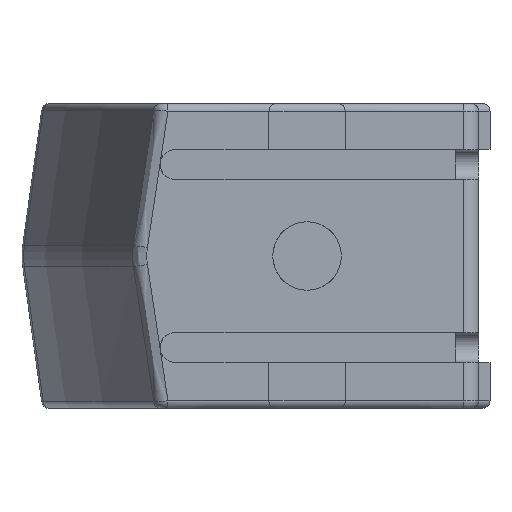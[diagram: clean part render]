
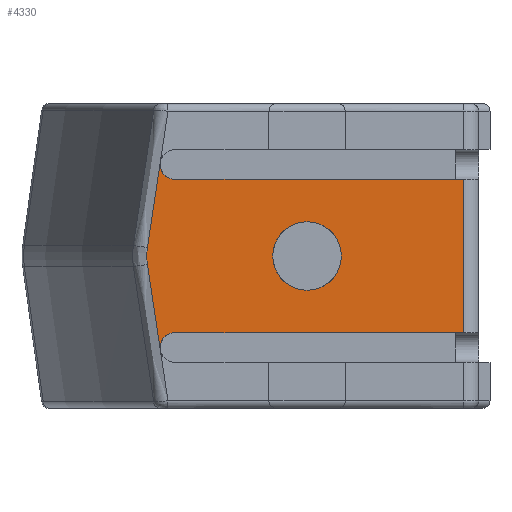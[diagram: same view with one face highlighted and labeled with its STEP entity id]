
A CAD part, front view. The second image highlights one B-rep face of the part: STEP entity #4330.
In plain terms, the highlighted planar face has unit normal (0, -1, 0).
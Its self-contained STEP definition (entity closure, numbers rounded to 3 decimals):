
#2 = CARTESIAN_POINT ( 'NONE',  ( 0.164, -127., 12. ) ) ;
#94 = CARTESIAN_POINT ( 'NONE',  ( 38., -127., -10.05 ) ) ;
#103 = VERTEX_POINT ( 'NONE', #1306 ) ;
#288 = CIRCLE ( 'NONE', #5019, 4.5 ) ;
#308 = VERTEX_POINT ( 'NONE', #3644 ) ;
#368 = DIRECTION ( 'NONE',  ( 0., 0., -1. ) ) ;
#372 = DIRECTION ( 'NONE',  ( 0., -1., 0. ) ) ;
#527 = VECTOR ( 'NONE', #4252, 1000. ) ;
#530 = LINE ( 'NONE', #4350, #2814 ) ;
#570 = EDGE_LOOP ( 'NONE', ( #1389, #906, #1272, #1149, #3348, #891, #3580, #1278 ) ) ;
#579 = FACE_OUTER_BOUND ( 'NONE', #570, .T. ) ;
#603 = EDGE_CURVE ( 'NONE', #308, #627, #5576, .T. ) ;
#627 = VERTEX_POINT ( 'NONE', #3903 ) ;
#869 = VERTEX_POINT ( 'NONE', #4735 ) ;
#891 = ORIENTED_EDGE ( 'NONE', *, *, #4942, .T. ) ;
#906 = ORIENTED_EDGE ( 'NONE', *, *, #5139, .F. ) ;
#1069 = DIRECTION ( 'NONE',  ( 0., -1., 0. ) ) ;
#1094 = CARTESIAN_POINT ( 'NONE',  ( -3.56, -127., 0.371 ) ) ;
#1106 = B_SPLINE_CURVE_WITH_KNOTS ( 'NONE', 3,
 ( #2757, #4569, #4035, #4935 ),
 .UNSPECIFIED., .F., .F.,
 ( 4, 4 ),
 ( 0.008, 0.019 ),
 .UNSPECIFIED. ) ;
#1149 = ORIENTED_EDGE ( 'NONE', *, *, #1958, .F. ) ;
#1272 = ORIENTED_EDGE ( 'NONE', *, *, #3377, .F. ) ;
#1278 = ORIENTED_EDGE ( 'NONE', *, *, #3036, .T. ) ;
#1280 = FACE_BOUND ( 'NONE', #2608, .T. ) ;
#1306 = CARTESIAN_POINT ( 'NONE',  ( -1.764, -127., 12.291 ) ) ;
#1389 = ORIENTED_EDGE ( 'NONE', *, *, #603, .F. ) ;
#1556 = EDGE_CURVE ( 'NONE', #3223, #2620, #4843, .T. ) ;
#1698 = CARTESIAN_POINT ( 'NONE',  ( 0.164, -127., -12. ) ) ;
#1792 = CARTESIAN_POINT ( 'NONE',  ( 38., -127., 10.05 ) ) ;
#1872 = DIRECTION ( 'NONE',  ( 0., 0., -1. ) ) ;
#1958 = EDGE_CURVE ( 'NONE', #3943, #2265, #5601, .T. ) ;
#2119 = DIRECTION ( 'NONE',  ( 0., 0., 1. ) ) ;
#2159 = CARTESIAN_POINT ( 'NONE',  ( -1.764, -127., -12.291 ) ) ;
#2265 = VERTEX_POINT ( 'NONE', #1792 ) ;
#2339 = EDGE_CURVE ( 'NONE', #2620, #3223, #288, .T. ) ;
#2358 = CARTESIAN_POINT ( 'NONE',  ( -3.56, -127., -0.371 ) ) ;
#2430 = CARTESIAN_POINT ( 'NONE',  ( 0.164, -127., -10.05 ) ) ;
#2470 = LINE ( 'NONE', #2430, #527 ) ;
#2608 = EDGE_LOOP ( 'NONE', ( #4472, #5150 ) ) ;
#2620 = VERTEX_POINT ( 'NONE', #2646 ) ;
#2646 = CARTESIAN_POINT ( 'NONE',  ( 17.5, -127., 4.5 ) ) ;
#2712 = CARTESIAN_POINT ( 'NONE',  ( 17.5, -127., 0. ) ) ;
#2757 = CARTESIAN_POINT ( 'NONE',  ( -1.764, -127., 12.291 ) ) ;
#2814 = VECTOR ( 'NONE', #368, 1000. ) ;
#2992 = B_SPLINE_CURVE_WITH_KNOTS ( 'NONE', 3,
 ( #3037, #3494, #5333, #2159 ),
 .UNSPECIFIED., .F., .F.,
 ( 4, 4 ),
 ( 0., 0.011 ),
 .UNSPECIFIED. ) ;
#3003 = CARTESIAN_POINT ( 'NONE',  ( 0.164, -127., 10.05 ) ) ;
#3036 = EDGE_CURVE ( 'NONE', #3911, #627, #2992, .T. ) ;
#3037 = CARTESIAN_POINT ( 'NONE',  ( -3.448, -127., -1.113 ) ) ;
#3138 = VECTOR ( 'NONE', #5487, 1000. ) ;
#3223 = VERTEX_POINT ( 'NONE', #4309 ) ;
#3245 = AXIS2_PLACEMENT_3D ( 'NONE', #1698, #372, #3488 ) ;
#3296 = CARTESIAN_POINT ( 'NONE',  ( -3.448, -127., -1.113 ) ) ;
#3348 = ORIENTED_EDGE ( 'NONE', *, *, #4428, .F. ) ;
#3377 = EDGE_CURVE ( 'NONE', #2265, #3587, #530, .T. ) ;
#3430 = DIRECTION ( 'NONE',  ( 0., 1., 0. ) ) ;
#3431 = CIRCLE ( 'NONE', #3491, 1.95 ) ;
#3479 = AXIS2_PLACEMENT_3D ( 'NONE', #4144, #1069, #3704 ) ;
#3488 = DIRECTION ( 'NONE',  ( 0., 0., -1. ) ) ;
#3491 = AXIS2_PLACEMENT_3D ( 'NONE', #2, #4447, #4894 ) ;
#3494 = CARTESIAN_POINT ( 'NONE',  ( -2.887, -127., -4.839 ) ) ;
#3580 = ORIENTED_EDGE ( 'NONE', *, *, #4628, .T. ) ;
#3587 = VERTEX_POINT ( 'NONE', #94 ) ;
#3643 = DIRECTION ( 'NONE',  ( 0., -1., 0. ) ) ;
#3644 = CARTESIAN_POINT ( 'NONE',  ( 0.164, -127., -10.05 ) ) ;
#3704 = DIRECTION ( 'NONE',  ( 0., 0., -1. ) ) ;
#3903 = CARTESIAN_POINT ( 'NONE',  ( -1.764, -127., -12.291 ) ) ;
#3911 = VERTEX_POINT ( 'NONE', #5701 ) ;
#3943 = VERTEX_POINT ( 'NONE', #3003 ) ;
#4035 = CARTESIAN_POINT ( 'NONE',  ( -2.887, -127., 4.839 ) ) ;
#4144 = CARTESIAN_POINT ( 'NONE',  ( 17.5, -127., 0. ) ) ;
#4252 = DIRECTION ( 'NONE',  ( -1., 0., 0. ) ) ;
#4309 = CARTESIAN_POINT ( 'NONE',  ( 17.5, -127., -4.5 ) ) ;
#4319 = AXIS2_PLACEMENT_3D ( 'NONE', #4743, #3430, #2119 ) ;
#4330 = ADVANCED_FACE ( 'NONE', ( #1280, #579 ), #4764, .F. ) ;
#4350 = CARTESIAN_POINT ( 'NONE',  ( 38., -127., 20. ) ) ;
#4428 = EDGE_CURVE ( 'NONE', #103, #3943, #3431, .T. ) ;
#4447 = DIRECTION ( 'NONE',  ( 0., -1., 0. ) ) ;
#4472 = ORIENTED_EDGE ( 'NONE', *, *, #1556, .F. ) ;
#4569 = CARTESIAN_POINT ( 'NONE',  ( -2.326, -127., 8.565 ) ) ;
#4628 = EDGE_CURVE ( 'NONE', #869, #3911, #5063, .T. ) ;
#4735 = CARTESIAN_POINT ( 'NONE',  ( -3.448, -127., 1.113 ) ) ;
#4743 = CARTESIAN_POINT ( 'NONE',  ( -4.9, -127., 20. ) ) ;
#4764 = PLANE ( 'NONE',  #4319 ) ;
#4843 = CIRCLE ( 'NONE', #3479, 4.5 ) ;
#4894 = DIRECTION ( 'NONE',  ( 0., 0., -1. ) ) ;
#4935 = CARTESIAN_POINT ( 'NONE',  ( -3.448, -127., 1.113 ) ) ;
#4942 = EDGE_CURVE ( 'NONE', #103, #869, #1106, .T. ) ;
#5019 = AXIS2_PLACEMENT_3D ( 'NONE', #2712, #3643, #1872 ) ;
#5063 = B_SPLINE_CURVE_WITH_KNOTS ( 'NONE', 3,
 ( #5558, #1094, #2358, #3296 ),
 .UNSPECIFIED., .F., .F.,
 ( 4, 4 ),
 ( 0., 0.002 ),
 .UNSPECIFIED. ) ;
#5139 = EDGE_CURVE ( 'NONE', #3587, #308, #2470, .T. ) ;
#5150 = ORIENTED_EDGE ( 'NONE', *, *, #2339, .F. ) ;
#5333 = CARTESIAN_POINT ( 'NONE',  ( -2.326, -127., -8.565 ) ) ;
#5487 = DIRECTION ( 'NONE',  ( 1., 0., 0. ) ) ;
#5547 = CARTESIAN_POINT ( 'NONE',  ( 40., -127., 10.05 ) ) ;
#5558 = CARTESIAN_POINT ( 'NONE',  ( -3.448, -127., 1.113 ) ) ;
#5576 = CIRCLE ( 'NONE', #3245, 1.95 ) ;
#5601 = LINE ( 'NONE', #5547, #3138 ) ;
#5701 = CARTESIAN_POINT ( 'NONE',  ( -3.448, -127., -1.113 ) ) ;
